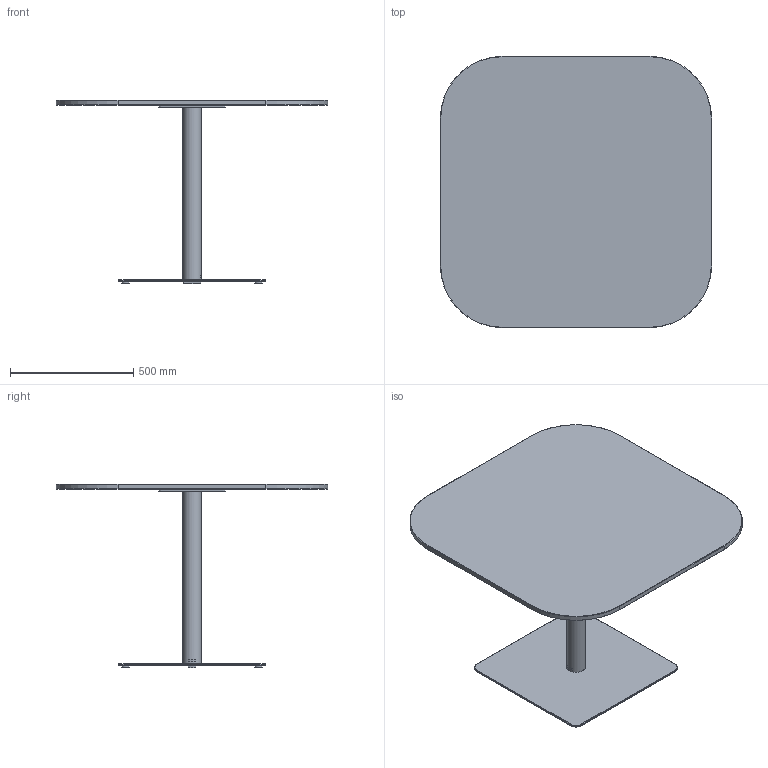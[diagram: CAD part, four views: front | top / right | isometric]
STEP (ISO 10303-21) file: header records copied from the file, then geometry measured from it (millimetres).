
FILE_DESCRIPTION( ('This file contains a STEP AP42 implementation' ,'as created by ZW3D STEP Interface translator.') ,'2;1' );
FILE_NAME( 'Henri - B_Carré - F2 - M1 - 1100 x 1100 x 750.stp' ,'24 912.1651 2', (''), ('ZWCAD Software Co.'), 'Version 1.0', 'ZW3D to STEP translator', '' );
FILE_SCHEMA(('AUTOMOTIVE_DESIGN { 1 0 10303 214 1 1 1 1 }'));
Length unit declared in the file: millimetre
Products named in the file (14): 0; PIED BISTROT PARAMETRIQUE_; COLONNE ACIER Ø76 V.02_; TUB-D076-02_; PLA-R76B-01_; CROIX ACIER 370 V.02_; CRX-X370-02_; SOCLE ACIER L 600x600 V.02_; SCL-R600-02_; PLA-R30A-01_; PLA-R30A-01; WUERTH 0276063020 Euro-screw 6.3x2 Verzinkt_; PLATEAU BISTROT PARAMETRIQUE_; insert_m6_13_
Assembly tree (22 placements, depth 3):
  0
  PIED BISTROT PARAMETRIQUE_
    COLONNE ACIER Ø76 V.02_
      TUB-D076-02_
      PLA-R76B-01_  x2
    CROIX ACIER 370 V.02_
      CRX-X370-02_
    SOCLE ACIER L 600x600 V.02_
      SCL-R600-02_
      PLA-R30A-01_
      PLA-R30A-01  x3
    WUERTH 0276063020 Euro-screw 6.3x2 Verzinkt_
    PLATEAU BISTROT PARAMETRIQUE_
      insert_m6_13_  x8
Bounding box: 1100 x 1100 x 744 mm (x, y, z)
Volume: 26929289.9 mm3; surface area: 3641535.1 mm2
Topology: 19 solids, 19 shells, 537 faces, 1310 edges, 822 vertices
Faces by surface type: plane 262, bspline 121, cylinder 98, cone 55, torus 1
Full cylindrical faces by diameter (mm): 4.88 x1, 6 x8, 6.3 x1, 8 x45, 12 x2, 14 x2, 30 x4, 72 x1, 76 x1
Entity records: 12310 total; most frequent: CARTESIAN_POINT 3396, ORIENTED_EDGE 1624, DIRECTION 1519, EDGE_CURVE 812, VERTEX_POINT 518, VECTOR 513, LINE 513, AXIS2_PLACEMENT_3D 503
